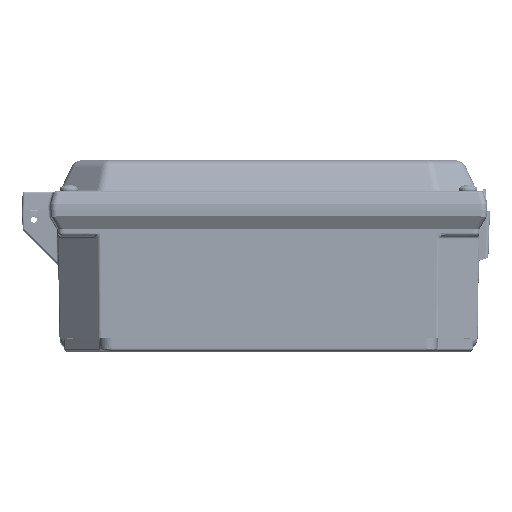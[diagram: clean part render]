
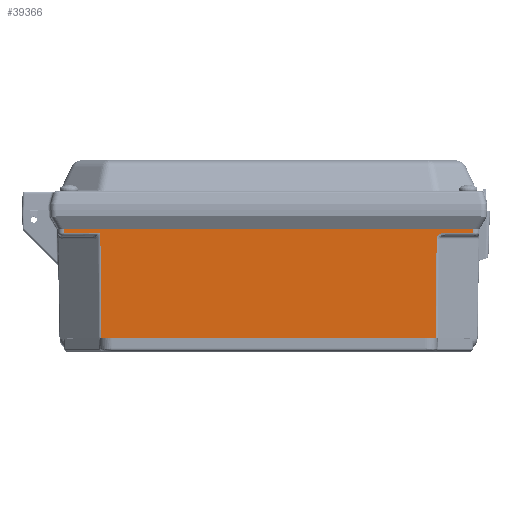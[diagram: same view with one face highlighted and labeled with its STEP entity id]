
A CAD part, top view. The second image highlights one B-rep face of the part: STEP entity #39366.
In plain terms, the highlighted planar face has unit normal (0, -0.018, 1).
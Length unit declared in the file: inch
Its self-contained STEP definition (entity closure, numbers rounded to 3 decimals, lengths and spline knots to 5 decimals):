
#4017 = LINE ( 'NONE', #110549, #125526 ) ;
#6877 = CARTESIAN_POINT ( 'NONE',  ( 3.35762, -0.37481, 5.1013 ) ) ;
#8817 = DIRECTION ( 'NONE',  ( 0., -0.017, 1. ) ) ;
#11330 = ORIENTED_EDGE ( 'NONE', *, *, #129209, .T. ) ;
#14722 = LINE ( 'NONE', #146934, #163647 ) ;
#14887 = VERTEX_POINT ( 'NONE', #43701 ) ;
#28640 = CARTESIAN_POINT ( 'NONE',  ( -3.3823, -0.45208, 5.09995 ) ) ;
#28822 = CARTESIAN_POINT ( 'NONE',  ( 3.3833, -2.562, 5.06312 ) ) ;
#32147 = ORIENTED_EDGE ( 'NONE', *, *, #39703, .T. ) ;
#35696 = AXIS2_PLACEMENT_3D ( 'NONE', #103783, #8817, #119693 ) ;
#37120 = LINE ( 'NONE', #37201, #200839 ) ;
#37201 = CARTESIAN_POINT ( 'NONE',  ( -4.08404, -0.5053, 5.09902 ) ) ;
#39366 = ADVANCED_FACE ( 'NONE', ( #158751 ), #71875, .T. ) ;
#39703 = EDGE_CURVE ( 'NONE', #176251, #114976, #203238, .T. ) ;
#40476 = CARTESIAN_POINT ( 'NONE',  ( 4.08632, -0.375, 5.1013 ) ) ;
#43701 = CARTESIAN_POINT ( 'NONE',  ( -3.34181, -2.562, 5.06312 ) ) ;
#46080 = ORIENTED_EDGE ( 'NONE', *, *, #61172, .T. ) ;
#50648 = EDGE_CURVE ( 'NONE', #199642, #177622, #141278, .T. ) ;
#50744 = VERTEX_POINT ( 'NONE', #167788 ) ;
#51120 = EDGE_CURVE ( 'NONE', #108749, #149039, #37120, .T. ) ;
#54501 = CARTESIAN_POINT ( 'NONE',  ( -4.08497, -0.45208, 5.09995 ) ) ;
#61172 = EDGE_CURVE ( 'NONE', #50744, #14887, #195449, .T. ) ;
#66271 = CARTESIAN_POINT ( 'NONE',  ( 3.52939, -0.45208, 5.09995 ) ) ;
#68875 = DIRECTION ( 'NONE',  ( 1., 0., 0. ) ) ;
#71875 = PLANE ( 'NONE',  #35696 ) ;
#72354 = EDGE_CURVE ( 'NONE', #114976, #194218, #4017, .T. ) ;
#73170 = CARTESIAN_POINT ( 'NONE',  ( -3.35727, -0.42372, 5.10045 ) ) ;
#74649 = EDGE_CURVE ( 'NONE', #149039, #50744, #152383, .T. ) ;
#76343 = LINE ( 'NONE', #28822, #202956 ) ;
#80672 = CARTESIAN_POINT ( 'NONE',  ( 3.35618, -0.57392, 5.09783 ) ) ;
#85672 = CARTESIAN_POINT ( 'NONE',  ( 3.52939, -0.45208, 5.09995 ) ) ;
#89153 = DIRECTION ( 'NONE',  ( 0.007, -1., -0.017 ) ) ;
#90178 = ORIENTED_EDGE ( 'NONE', *, *, #122686, .F. ) ;
#96596 = EDGE_LOOP ( 'NONE', ( #90178, #32147, #178410, #11330, #105993, #155049, #46080, #134146, #117342 ) ) ;
#101860 = DIRECTION ( 'NONE',  ( 0.007, 1., 0.017 ) ) ;
#103783 = CARTESIAN_POINT ( 'NONE',  ( 3.3833, -0.375, 5.1013 ) ) ;
#105993 = ORIENTED_EDGE ( 'NONE', *, *, #51120, .T. ) ;
#108749 = VERTEX_POINT ( 'NONE', #173419 ) ;
#110549 = CARTESIAN_POINT ( 'NONE',  ( 4.0861, -0.38726, 5.10108 ) ) ;
#114976 = VERTEX_POINT ( 'NONE', #166848 ) ;
#117342 = ORIENTED_EDGE ( 'NONE', *, *, #50648, .T. ) ;
#119693 = DIRECTION ( 'NONE',  ( 0., -1., -0.017 ) ) ;
#122686 = EDGE_CURVE ( 'NONE', #176251, #177622, #147613, .T. ) ;
#125526 = VECTOR ( 'NONE', #205592, 39.37008 ) ;
#129209 = EDGE_CURVE ( 'NONE', #194218, #108749, #14722, .T. ) ;
#129309 = CARTESIAN_POINT ( 'NONE',  ( 3.3567, -0.50229, 5.09908 ) ) ;
#129612 = CARTESIAN_POINT ( 'NONE',  ( 3.34181, -2.562, 5.06312 ) ) ;
#132152 = DIRECTION ( 'NONE',  ( 0.017, -1., -0.017 ) ) ;
#134146 = ORIENTED_EDGE ( 'NONE', *, *, #187478, .T. ) ;
#139759 = DIRECTION ( 'NONE',  ( 1., 0., 0. ) ) ;
#141278 = LINE ( 'NONE', #6877, #188460 ) ;
#146934 = CARTESIAN_POINT ( 'NONE',  ( 4.35563, -0.375, 5.1013 ) ) ;
#147613 =( BOUNDED_CURVE ( )  B_SPLINE_CURVE ( 3, ( #85672, #162048, #129309, #196683 ),
 .UNSPECIFIED., .F., .F. ) 
 B_SPLINE_CURVE_WITH_KNOTS ( ( 4, 4 ),
 ( 1.59548, 3.14882 ),
 .UNSPECIFIED. ) 
 CURVE ( )  GEOMETRIC_REPRESENTATION_ITEM ( )  RATIONAL_B_SPLINE_CURVE ( ( 1., 0.809, 0.809, 1. ) ) 
 REPRESENTATION_ITEM ( '' )  );
#149039 = VERTEX_POINT ( 'NONE', #54501 ) ;
#152383 = LINE ( 'NONE', #28640, #157358 ) ;
#154264 = DIRECTION ( 'NONE',  ( 1., 0., 0. ) ) ;
#155049 = ORIENTED_EDGE ( 'NONE', *, *, #74649, .T. ) ;
#157358 = VECTOR ( 'NONE', #154264, 39.37008 ) ;
#158751 = FACE_OUTER_BOUND ( 'NONE', #96596, .T. ) ;
#161152 = VECTOR ( 'NONE', #68875, 39.37008 ) ;
#162048 = CARTESIAN_POINT ( 'NONE',  ( 3.42808, -0.45208, 5.09995 ) ) ;
#162875 = DIRECTION ( 'NONE',  ( -1., 0., 0. ) ) ;
#163647 = VECTOR ( 'NONE', #162875, 39.37008 ) ;
#166848 = CARTESIAN_POINT ( 'NONE',  ( 4.08497, -0.45208, 5.09995 ) ) ;
#167788 = CARTESIAN_POINT ( 'NONE',  ( -3.35706, -0.45208, 5.09995 ) ) ;
#173419 = CARTESIAN_POINT ( 'NONE',  ( -4.08632, -0.375, 5.1013 ) ) ;
#176251 = VERTEX_POINT ( 'NONE', #66271 ) ;
#177622 = VERTEX_POINT ( 'NONE', #80672 ) ;
#178410 = ORIENTED_EDGE ( 'NONE', *, *, #72354, .T. ) ;
#179940 = CARTESIAN_POINT ( 'NONE',  ( 4.08391, -0.45208, 5.09995 ) ) ;
#187478 = EDGE_CURVE ( 'NONE', #14887, #199642, #76343, .T. ) ;
#188460 = VECTOR ( 'NONE', #101860, 39.37008 ) ;
#190467 = VECTOR ( 'NONE', #89153, 39.37008 ) ;
#194218 = VERTEX_POINT ( 'NONE', #40476 ) ;
#195449 = LINE ( 'NONE', #73170, #190467 ) ;
#196683 = CARTESIAN_POINT ( 'NONE',  ( 3.35618, -0.57392, 5.09783 ) ) ;
#199642 = VERTEX_POINT ( 'NONE', #129612 ) ;
#200839 = VECTOR ( 'NONE', #132152, 39.37008 ) ;
#202956 = VECTOR ( 'NONE', #139759, 39.37008 ) ;
#203238 = LINE ( 'NONE', #179940, #161152 ) ;
#205592 = DIRECTION ( 'NONE',  ( 0.017, 1., 0.017 ) ) ;
